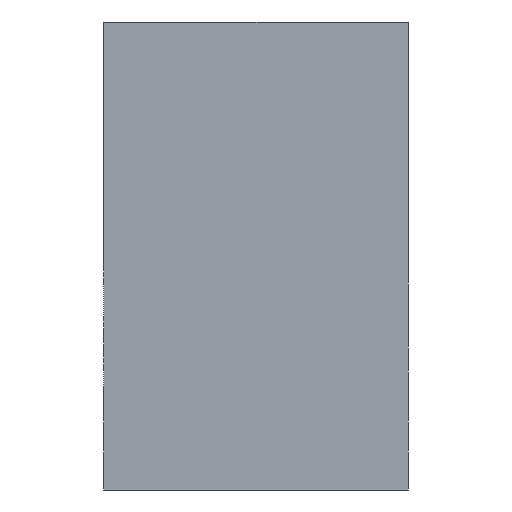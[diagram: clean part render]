
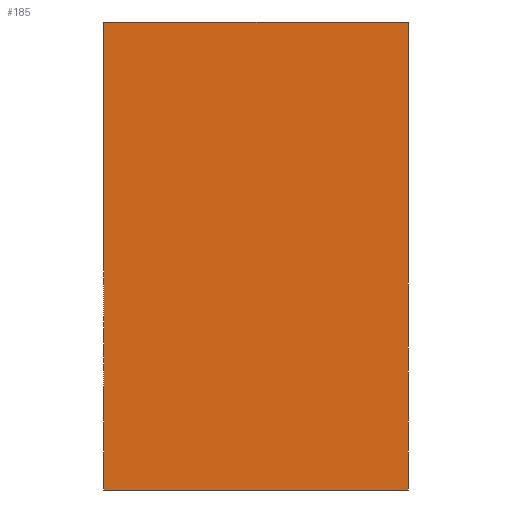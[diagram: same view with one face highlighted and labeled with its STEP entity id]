
A CAD part, left-side view. The second image highlights one B-rep face of the part: STEP entity #185.
In plain terms, the highlighted planar face has unit normal (-1, 0, 0).
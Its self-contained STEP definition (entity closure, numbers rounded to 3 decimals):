
#86 = CARTESIAN_POINT ( 'NONE',  ( 0., 19.5, 0. ) ) ;
#107 = ORIENTED_EDGE ( 'NONE', *, *, #226, .T. ) ;
#131 = LINE ( 'NONE', #2357, #2538 ) ;
#185 = ADVANCED_FACE ( 'NONE', ( #852 ), #1135, .F. ) ;
#226 = EDGE_CURVE ( 'NONE', #301, #2291, #2218, .T. ) ;
#244 = VECTOR ( 'NONE', #435, 1000. ) ;
#301 = VERTEX_POINT ( 'NONE', #1585 ) ;
#435 = DIRECTION ( 'NONE',  ( 0., -1., 0. ) ) ;
#523 = AXIS2_PLACEMENT_3D ( 'NONE', #1192, #1619, #1223 ) ;
#575 = VECTOR ( 'NONE', #2019, 1000. ) ;
#646 = ORIENTED_EDGE ( 'NONE', *, *, #2126, .T. ) ;
#852 = FACE_OUTER_BOUND ( 'NONE', #1199, .T. ) ;
#871 = ORIENTED_EDGE ( 'NONE', *, *, #2397, .F. ) ;
#1135 = PLANE ( 'NONE',  #523 ) ;
#1141 = VECTOR ( 'NONE', #2117, 1000. ) ;
#1192 = CARTESIAN_POINT ( 'NONE',  ( 0., 19.5, 0. ) ) ;
#1199 = EDGE_LOOP ( 'NONE', ( #646, #2118, #871, #107 ) ) ;
#1223 = DIRECTION ( 'NONE',  ( 0., 0., -1. ) ) ;
#1337 = VERTEX_POINT ( 'NONE', #2613 ) ;
#1386 = CARTESIAN_POINT ( 'NONE',  ( 0., 19.5, -30. ) ) ;
#1429 = CARTESIAN_POINT ( 'NONE',  ( 0., 19.5, 0. ) ) ;
#1539 = DIRECTION ( 'NONE',  ( 0., 0., 1. ) ) ;
#1585 = CARTESIAN_POINT ( 'NONE',  ( 0., 19.5, -30. ) ) ;
#1619 = DIRECTION ( 'NONE',  ( 1., 0., 0. ) ) ;
#1693 = CARTESIAN_POINT ( 'NONE',  ( 0., 0., -30. ) ) ;
#1711 = LINE ( 'NONE', #1835, #244 ) ;
#1835 = CARTESIAN_POINT ( 'NONE',  ( 0., 19.5, 0. ) ) ;
#2019 = DIRECTION ( 'NONE',  ( 0., -1., 0. ) ) ;
#2117 = DIRECTION ( 'NONE',  ( 0., 0., 1. ) ) ;
#2118 = ORIENTED_EDGE ( 'NONE', *, *, #2122, .F. ) ;
#2122 = EDGE_CURVE ( 'NONE', #2451, #1337, #1711, .T. ) ;
#2126 = EDGE_CURVE ( 'NONE', #2291, #1337, #131, .T. ) ;
#2218 = LINE ( 'NONE', #1386, #575 ) ;
#2291 = VERTEX_POINT ( 'NONE', #1693 ) ;
#2357 = CARTESIAN_POINT ( 'NONE',  ( 0., 0., 0. ) ) ;
#2397 = EDGE_CURVE ( 'NONE', #301, #2451, #2579, .T. ) ;
#2451 = VERTEX_POINT ( 'NONE', #86 ) ;
#2538 = VECTOR ( 'NONE', #1539, 1000. ) ;
#2579 = LINE ( 'NONE', #1429, #1141 ) ;
#2613 = CARTESIAN_POINT ( 'NONE',  ( 0., 0., 0. ) ) ;
